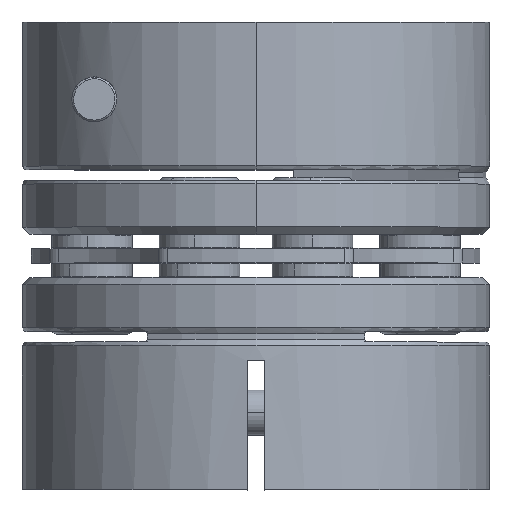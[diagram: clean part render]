
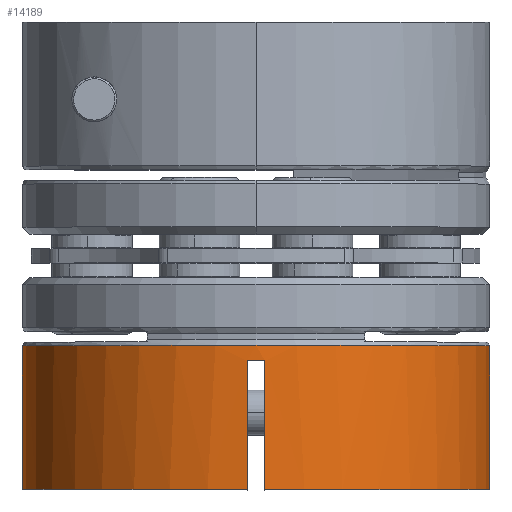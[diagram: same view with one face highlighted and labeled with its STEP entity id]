
A CAD part, top view. The second image highlights one B-rep face of the part: STEP entity #14189.
In plain terms, the highlighted cylindrical face has radius 13 mm (diameter 26 mm), a partial arc.
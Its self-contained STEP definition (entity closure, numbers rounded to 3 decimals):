
#778 = ORIENTED_EDGE ( 'NONE', *, *, #13682, .T. ) ;
#1662 = VERTEX_POINT ( 'NONE', #5692 ) ;
#1742 = LINE ( 'NONE', #3295, #7610 ) ;
#1803 = EDGE_CURVE ( 'NONE', #13599, #21988, #19912, .T. ) ;
#1830 = LINE ( 'NONE', #21563, #13801 ) ;
#1878 = LINE ( 'NONE', #10524, #16104 ) ;
#2285 = DIRECTION ( 'NONE',  ( 0., -1., 0. ) ) ;
#2346 = AXIS2_PLACEMENT_3D ( 'NONE', #11566, #9781, #22065 ) ;
#2872 = ORIENTED_EDGE ( 'NONE', *, *, #6712, .F. ) ;
#3295 = CARTESIAN_POINT ( 'NONE',  ( 2.255, -14.489, 12.99 ) ) ;
#3706 = CARTESIAN_POINT ( 'NONE',  ( -11.245, -26.289, 0. ) ) ;
#4018 = CIRCLE ( 'NONE', #22364, 13. ) ;
#4173 = DIRECTION ( 'NONE',  ( 0., 1., 0. ) ) ;
#4239 = VECTOR ( 'NONE', #18239, 1000. ) ;
#4264 = CARTESIAN_POINT ( 'NONE',  ( 14.755, -26.289, 0. ) ) ;
#4349 = CARTESIAN_POINT ( 'NONE',  ( 1.922, -19.16, 13.003 ) ) ;
#4920 = DIRECTION ( 'NONE',  ( -1., 0., 0. ) ) ;
#4989 = EDGE_CURVE ( 'NONE', #19395, #19845, #18971, .T. ) ;
#5692 = CARTESIAN_POINT ( 'NONE',  ( -11.245, -18.289, 0. ) ) ;
#5895 = AXIS2_PLACEMENT_3D ( 'NONE', #10975, #4173, #6033 ) ;
#6033 = DIRECTION ( 'NONE',  ( -1., 0., 0. ) ) ;
#6195 = EDGE_CURVE ( 'NONE', #8012, #7008, #4018, .T. ) ;
#6712 = EDGE_CURVE ( 'NONE', #1662, #21111, #20114, .T. ) ;
#6885 = DIRECTION ( 'NONE',  ( 0., -1., 0. ) ) ;
#7008 = VERTEX_POINT ( 'NONE', #14575 ) ;
#7610 = VECTOR ( 'NONE', #6885, 1000. ) ;
#8012 = VERTEX_POINT ( 'NONE', #4264 ) ;
#8098 = DIRECTION ( 'NONE',  ( 0., 1., 0. ) ) ;
#9366 = CARTESIAN_POINT ( 'NONE',  ( 1.255, -14.489, 12.99 ) ) ;
#9781 = DIRECTION ( 'NONE',  ( 0., -1., 0. ) ) ;
#10347 = CYLINDRICAL_SURFACE ( 'NONE', #5895, 13. ) ;
#10524 = CARTESIAN_POINT ( 'NONE',  ( 14.755, -56.94, 0. ) ) ;
#10839 = EDGE_CURVE ( 'NONE', #8012, #21111, #1878, .T. ) ;
#10975 = CARTESIAN_POINT ( 'NONE',  ( 1.755, -56.94, 0. ) ) ;
#11566 = CARTESIAN_POINT ( 'NONE',  ( 1.755, -26.289, 0. ) ) ;
#11606 = ORIENTED_EDGE ( 'NONE', *, *, #14483, .F. ) ;
#12011 = EDGE_CURVE ( 'NONE', #21988, #1662, #1830, .T. ) ;
#12866 = FACE_OUTER_BOUND ( 'NONE', #19329, .T. ) ;
#13256 = ORIENTED_EDGE ( 'NONE', *, *, #4989, .T. ) ;
#13310 = CARTESIAN_POINT ( 'NONE',  ( 1.755, -18.289, 0. ) ) ;
#13599 = VERTEX_POINT ( 'NONE', #18832 ) ;
#13682 = EDGE_CURVE ( 'NONE', #19845, #7008, #1742, .T. ) ;
#13801 = VECTOR ( 'NONE', #19615, 1000. ) ;
#14117 = DIRECTION ( 'NONE',  ( 0., 1., 0. ) ) ;
#14189 = ADVANCED_FACE ( 'NONE', ( #12866 ), #10347, .T. ) ;
#14483 = EDGE_CURVE ( 'NONE', #19395, #13599, #20360, .T. ) ;
#14575 = CARTESIAN_POINT ( 'NONE',  ( 2.255, -26.289, 12.99 ) ) ;
#14698 = CARTESIAN_POINT ( 'NONE',  ( 2.255, -19.154, 12.99 ) ) ;
#15026 = ORIENTED_EDGE ( 'NONE', *, *, #6195, .F. ) ;
#15403 = CARTESIAN_POINT ( 'NONE',  ( 14.755, -18.289, 0. ) ) ;
#16104 = VECTOR ( 'NONE', #14117, 1000. ) ;
#18239 = DIRECTION ( 'NONE',  ( 0., -1., 0. ) ) ;
#18832 = CARTESIAN_POINT ( 'NONE',  ( 1.255, -26.289, 12.99 ) ) ;
#18971 = B_SPLINE_CURVE_WITH_KNOTS ( 'NONE', 3,
 ( #20200, #20430, #4349, #22131 ),
 .UNSPECIFIED., .F., .F.,
 ( 4, 4 ),
 ( 0., 0.001 ),
 .UNSPECIFIED. ) ;
#18982 = AXIS2_PLACEMENT_3D ( 'NONE', #13310, #8098, #4920 ) ;
#18997 = ORIENTED_EDGE ( 'NONE', *, *, #10839, .T. ) ;
#19121 = ORIENTED_EDGE ( 'NONE', *, *, #12011, .F. ) ;
#19329 = EDGE_LOOP ( 'NONE', ( #15026, #18997, #2872, #19121, #22921, #11606, #13256, #778 ) ) ;
#19395 = VERTEX_POINT ( 'NONE', #21996 ) ;
#19615 = DIRECTION ( 'NONE',  ( 0., 1., 0. ) ) ;
#19796 = DIRECTION ( 'NONE',  ( 1., 0., 0. ) ) ;
#19845 = VERTEX_POINT ( 'NONE', #14698 ) ;
#19912 = CIRCLE ( 'NONE', #2346, 13. ) ;
#20114 = CIRCLE ( 'NONE', #18982, 13. ) ;
#20200 = CARTESIAN_POINT ( 'NONE',  ( 1.255, -19.154, 12.99 ) ) ;
#20360 = LINE ( 'NONE', #9366, #4239 ) ;
#20430 = CARTESIAN_POINT ( 'NONE',  ( 1.589, -19.16, 13.003 ) ) ;
#21111 = VERTEX_POINT ( 'NONE', #15403 ) ;
#21563 = CARTESIAN_POINT ( 'NONE',  ( -11.245, -56.94, 0. ) ) ;
#21739 = CARTESIAN_POINT ( 'NONE',  ( 1.755, -26.289, 0. ) ) ;
#21988 = VERTEX_POINT ( 'NONE', #3706 ) ;
#21996 = CARTESIAN_POINT ( 'NONE',  ( 1.255, -19.154, 12.99 ) ) ;
#22065 = DIRECTION ( 'NONE',  ( 1., 0., 0. ) ) ;
#22131 = CARTESIAN_POINT ( 'NONE',  ( 2.255, -19.154, 12.99 ) ) ;
#22364 = AXIS2_PLACEMENT_3D ( 'NONE', #21739, #2285, #19796 ) ;
#22921 = ORIENTED_EDGE ( 'NONE', *, *, #1803, .F. ) ;
